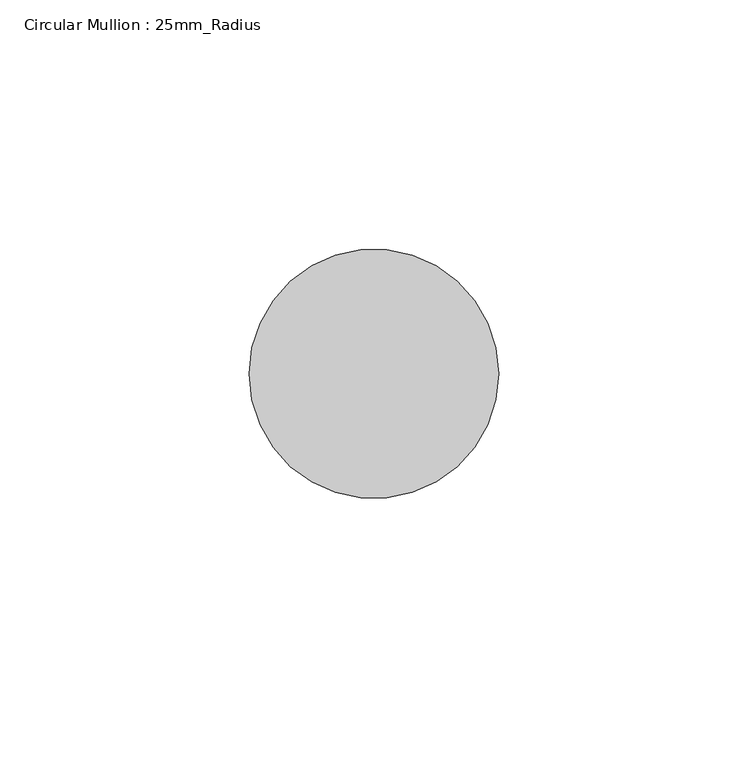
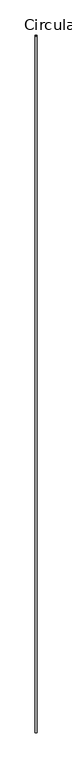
"""IFC4 building model written with IfcOpenShell, lengths in millimetres: member geometry, Circular Mullion : 25mm_Radius."""

from ifc_helpers import new_model, si_unit, point, frame, origin, origin_2d, place, context, project, spatial, circle_curve, trimmed, segment, composite_curve, outline, extrude, source, transform, mapped, element, save


def circular_mullion_25mm_radius_5473c718(model_context):
    return source(origin(), model_context, "Body", "SweptSolid", [
        extrude(outline(composite_curve([segment(trimmed(circle_curve(origin_2d(), 25.0), [point((25.0, 0.0))], [point((-25.0, 0.0))], False, "CARTESIAN"), True, "CONTINUOUS"), segment(trimmed(circle_curve(origin_2d(), 25.0), [point((-25.0, 0.0))], [point((25.0, 0.0))], False, "CARTESIAN"), True, "CONTINUOUS")], self_intersect=False)), frame((0.0, 0.0, -23234.752515), z_axis=(0.0, 0.0, 1.0), x_axis=(1.0, 0.0, 0.0)), (0.0, 0.0, 1.0), 23234.752515),
    ])


if __name__ == "__main__":
    model = new_model("IFC4")
    model_context = context("Model", 3, world=origin())
    ifc_project = project(units=[si_unit("LENGTHUNIT", "METRE", prefix="MILLI")], contexts=[model_context])
    site = spatial("IfcSite", under=ifc_project)
    building = spatial("IfcBuilding", under=site)
    placement = place(None, origin())
    circular_mullion_25mm_radius_shape = circular_mullion_25mm_radius_5473c718(model_context)
    element("IfcMember", 1, ObjectType="Circular Mullion : 25mm_Radius", at=placement, inside=building, context=model_context, shape_type="MappedRepresentation", body=[
        mapped(circular_mullion_25mm_radius_shape, transform((0.0, 0.0, 0.0), x_axis=(1.0, 0.0, 0.0), y_axis=(0.0, 1.0, 0.0), z_axis=(0.0, 0.0, 1.0))),
    ])
    save(model, "model.ifc")
